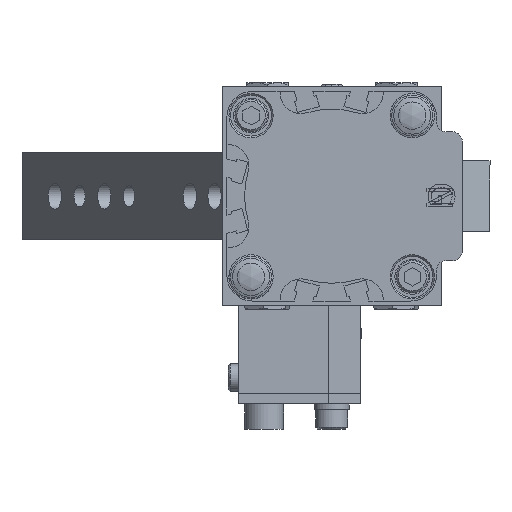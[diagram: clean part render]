
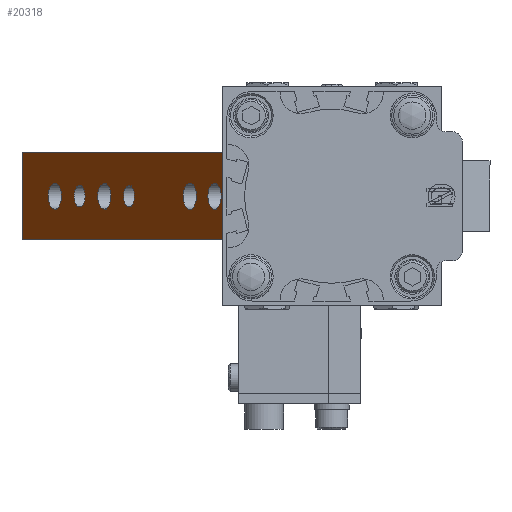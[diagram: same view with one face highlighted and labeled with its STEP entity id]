
A CAD part, left-side view. The second image highlights one B-rep face of the part: STEP entity #20318.
In plain terms, the highlighted planar face has unit normal (-0.51, 0.86, 0) as drawn and (0, 1, 0) by its records, which use the part's own axes.
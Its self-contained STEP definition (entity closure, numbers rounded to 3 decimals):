
#1896=LINE('',#31355,#3366);
#1909=LINE('',#31386,#3379);
#1914=LINE('',#31396,#3384);
#1936=LINE('',#31463,#3406);
#1938=LINE('',#31466,#3408);
#1941=LINE('',#31480,#3411);
#1949=LINE('',#31537,#3419);
#1950=LINE('',#31538,#3420);
#3366=VECTOR('',#25350,10.);
#3379=VECTOR('',#25375,10.);
#3384=VECTOR('',#25384,10.);
#3406=VECTOR('',#25444,10.);
#3408=VECTOR('',#25448,10.);
#3411=VECTOR('',#25461,10.);
#3419=VECTOR('',#25483,10.);
#3420=VECTOR('',#25484,10.);
#4575=PLANE('',#22330);
#5530=FACE_BOUND('',#7712,.T.);
#5531=FACE_BOUND('',#7713,.T.);
#5532=FACE_BOUND('',#7714,.T.);
#5533=FACE_BOUND('',#7715,.T.);
#5534=FACE_BOUND('',#7716,.T.);
#5535=FACE_BOUND('',#7717,.T.);
#6299=FACE_OUTER_BOUND('',#7711,.T.);
#7711=EDGE_LOOP('',(#16120,#16121,#16122,#16123,#16124,#16125,#16126,#16127));
#7712=EDGE_LOOP('',(#16128));
#7713=EDGE_LOOP('',(#16129));
#7714=EDGE_LOOP('',(#16130));
#7715=EDGE_LOOP('',(#16131));
#7716=EDGE_LOOP('',(#16132));
#7717=EDGE_LOOP('',(#16133));
#9316=CIRCLE('',#22331,4.);
#9317=CIRCLE('',#22332,4.);
#9318=CIRCLE('',#22333,3.324);
#9319=CIRCLE('',#22334,3.324);
#9320=CIRCLE('',#22335,4.025);
#9321=CIRCLE('',#22336,4.025);
#10434=VERTEX_POINT('',#31352);
#10435=VERTEX_POINT('',#31354);
#10446=VERTEX_POINT('',#31383);
#10447=VERTEX_POINT('',#31385);
#10449=VERTEX_POINT('',#31393);
#10450=VERTEX_POINT('',#31395);
#10475=VERTEX_POINT('',#31459);
#10488=VERTEX_POINT('',#31536);
#10489=VERTEX_POINT('',#31539);
#10490=VERTEX_POINT('',#31541);
#10491=VERTEX_POINT('',#31543);
#10492=VERTEX_POINT('',#31545);
#10493=VERTEX_POINT('',#31547);
#10494=VERTEX_POINT('',#31549);
#12608=EDGE_CURVE('',#10435,#10434,#1896,.T.);
#12623=EDGE_CURVE('',#10447,#10446,#1909,.T.);
#12628=EDGE_CURVE('',#10449,#10450,#1914,.T.);
#12662=EDGE_CURVE('',#10450,#10475,#1936,.T.);
#12664=EDGE_CURVE('',#10434,#10475,#1938,.T.);
#12671=EDGE_CURVE('',#10449,#10447,#1941,.T.);
#12683=EDGE_CURVE('',#10488,#10446,#1949,.T.);
#12684=EDGE_CURVE('',#10488,#10435,#1950,.T.);
#12685=EDGE_CURVE('',#10489,#10489,#9316,.T.);
#12686=EDGE_CURVE('',#10490,#10490,#9317,.T.);
#12687=EDGE_CURVE('',#10491,#10491,#9318,.T.);
#12688=EDGE_CURVE('',#10492,#10492,#9319,.T.);
#12689=EDGE_CURVE('',#10493,#10493,#9320,.T.);
#12690=EDGE_CURVE('',#10494,#10494,#9321,.T.);
#16120=ORIENTED_EDGE('',*,*,#12608,.T.);
#16121=ORIENTED_EDGE('',*,*,#12664,.T.);
#16122=ORIENTED_EDGE('',*,*,#12662,.F.);
#16123=ORIENTED_EDGE('',*,*,#12628,.F.);
#16124=ORIENTED_EDGE('',*,*,#12671,.T.);
#16125=ORIENTED_EDGE('',*,*,#12623,.T.);
#16126=ORIENTED_EDGE('',*,*,#12683,.F.);
#16127=ORIENTED_EDGE('',*,*,#12684,.T.);
#16128=ORIENTED_EDGE('',*,*,#12685,.T.);
#16129=ORIENTED_EDGE('',*,*,#12686,.T.);
#16130=ORIENTED_EDGE('',*,*,#12687,.T.);
#16131=ORIENTED_EDGE('',*,*,#12688,.T.);
#16132=ORIENTED_EDGE('',*,*,#12689,.T.);
#16133=ORIENTED_EDGE('',*,*,#12690,.T.);
#20318=ADVANCED_FACE('',(#6299,#5530,#5531,#5532,#5533,#5534,#5535),#4575,
 .T.);
#22330=AXIS2_PLACEMENT_3D('',#31535,#25481,#25482);
#22331=AXIS2_PLACEMENT_3D('',#31540,#25485,#25486);
#22332=AXIS2_PLACEMENT_3D('',#31542,#25487,#25488);
#22333=AXIS2_PLACEMENT_3D('',#31544,#25489,#25490);
#22334=AXIS2_PLACEMENT_3D('',#31546,#25491,#25492);
#22335=AXIS2_PLACEMENT_3D('',#31548,#25493,#25494);
#22336=AXIS2_PLACEMENT_3D('',#31550,#25495,#25496);
#25350=DIRECTION('',(0.,0.,1.));
#25375=DIRECTION('',(1.,0.,0.));
#25384=DIRECTION('',(-1.,0.,0.));
#25444=DIRECTION('',(0.,0.,-1.));
#25448=DIRECTION('',(-1.,0.,0.));
#25461=DIRECTION('',(0.,0.,1.));
#25481=DIRECTION('center_axis',(0.,1.,0.));
#25482=DIRECTION('ref_axis',(0.,0.,1.));
#25483=DIRECTION('',(0.,0.,1.));
#25484=DIRECTION('',(-1.,0.,0.));
#25485=DIRECTION('center_axis',(0.,-1.,0.));
#25486=DIRECTION('ref_axis',(1.,0.,0.));
#25487=DIRECTION('center_axis',(0.,-1.,0.));
#25488=DIRECTION('ref_axis',(1.,0.,0.));
#25489=DIRECTION('center_axis',(0.,-1.,0.));
#25490=DIRECTION('ref_axis',(1.,0.,0.));
#25491=DIRECTION('center_axis',(0.,-1.,0.));
#25492=DIRECTION('ref_axis',(1.,0.,0.));
#25493=DIRECTION('center_axis',(0.,-1.,0.));
#25494=DIRECTION('ref_axis',(1.,0.,0.));
#25495=DIRECTION('center_axis',(0.,-1.,0.));
#25496=DIRECTION('ref_axis',(1.,0.,0.));
#31352=CARTESIAN_POINT('',(26.5,75.,2.5));
#31354=CARTESIAN_POINT('',(26.5,75.,0.));
#31355=CARTESIAN_POINT('',(26.5,75.,0.625));
#31383=CARTESIAN_POINT('',(155.,75.,27.));
#31385=CARTESIAN_POINT('',(26.5,75.,27.));
#31386=CARTESIAN_POINT('',(155.,75.,27.));
#31393=CARTESIAN_POINT('',(26.5,75.,24.5));
#31395=CARTESIAN_POINT('',(-3.,75.,24.5));
#31396=CARTESIAN_POINT('',(0.,75.,24.5));
#31459=CARTESIAN_POINT('',(-3.,75.,2.5));
#31463=CARTESIAN_POINT('',(-3.,75.,24.5));
#31466=CARTESIAN_POINT('',(0.,75.,2.5));
#31480=CARTESIAN_POINT('',(26.5,75.,12.875));
#31535=CARTESIAN_POINT('Origin',(0.,75.,0.));
#31536=CARTESIAN_POINT('',(155.,75.,0.));
#31537=CARTESIAN_POINT('',(155.,75.,0.));
#31538=CARTESIAN_POINT('',(155.,75.,0.));
#31539=CARTESIAN_POINT('',(139.,75.,13.5));
#31540=CARTESIAN_POINT('Origin',(135.,75.,13.5));
#31541=CARTESIAN_POINT('',(109.,75.,13.5));
#31542=CARTESIAN_POINT('Origin',(105.,75.,13.5));
#31543=CARTESIAN_POINT('',(123.324,75.,13.5));
#31544=CARTESIAN_POINT('Origin',(120.,75.,13.5));
#31545=CARTESIAN_POINT('',(93.324,75.,13.5));
#31546=CARTESIAN_POINT('Origin',(90.,75.,13.5));
#31547=CARTESIAN_POINT('',(42.025,75.,13.5));
#31548=CARTESIAN_POINT('Origin',(38.,75.,13.5));
#31549=CARTESIAN_POINT('',(57.025,75.,13.5));
#31550=CARTESIAN_POINT('Origin',(53.,75.,13.5));
